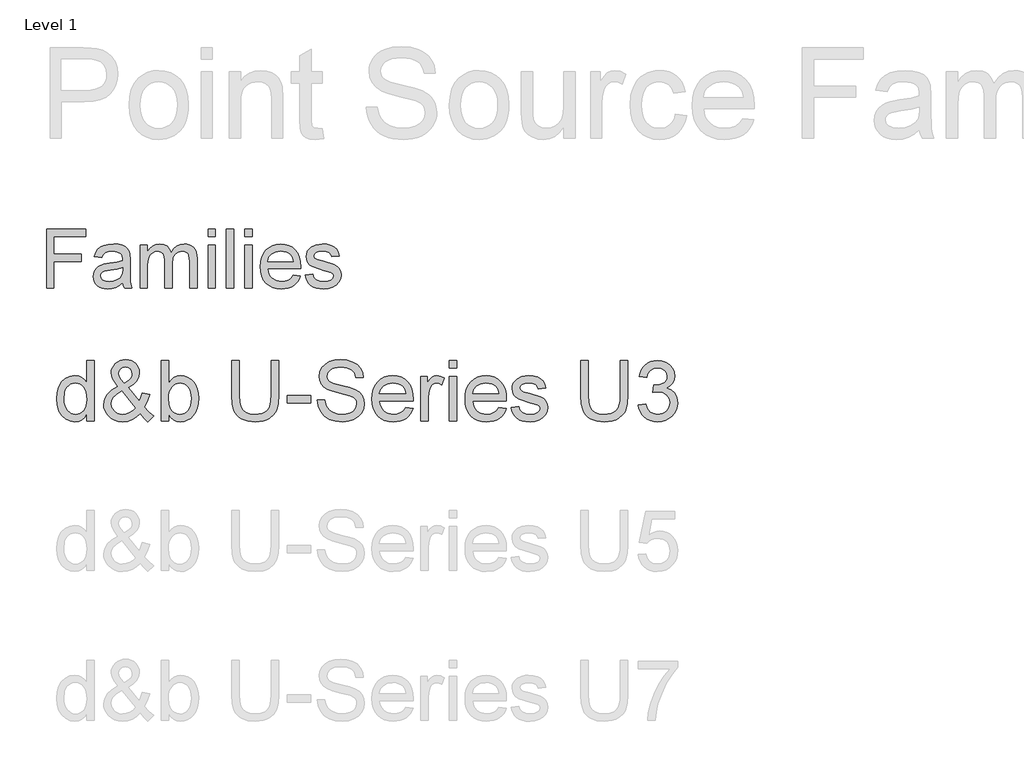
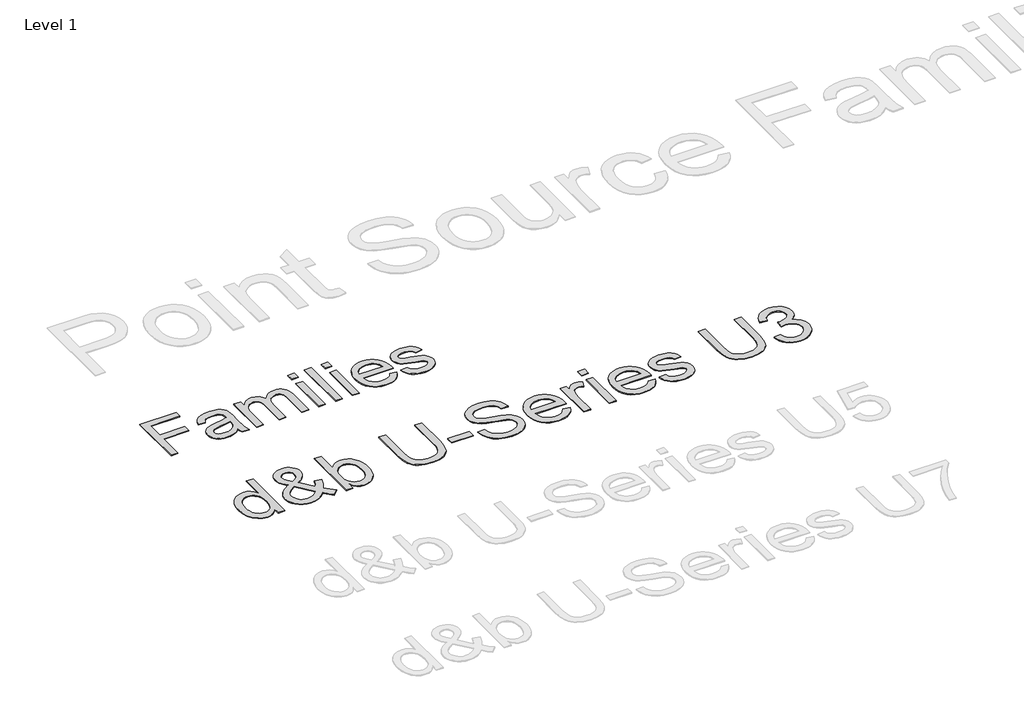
# One storey, part 25 of 29: 2 proxies.
"""IFC4 building model written with IfcOpenShell, lengths in millimetres."""

from ifc_helpers import new_model, si_unit, origin, origin_with_axes, place, context, project, spatial, polyline, outline, extrude, element, save

model = new_model("IFC4")

# Units and contexts
model_context = context("Model", 3, world=origin())
ifc_project = project(units=[si_unit("LENGTHUNIT", "METRE", prefix="MILLI")], contexts=[model_context])

# Site, building, storey
site = spatial("IfcSite", under=ifc_project)
building = spatial("IfcBuilding", under=site)
storey = spatial("IfcBuildingStorey", under=building, Name="Level 1", Elevation=0.0)

# Proxies
placement = place(None, origin())
element("IfcBuildingElementProxy", 1, Name="400mm Arial", ObjectType="400mm Arial", at=placement, inside=storey, context=model_context, shape_type="SweptSolid", body=[
    extrude(outline(polyline([(-21056.720891, 17351.3054836), (-21056.720891, 17743.0630593), (-20793.5087698, 17743.0630593), (-20793.5087698, 17694.0933624), (-21007.7511941, 17694.0933624), (-21007.7511941, 17577.7903321), (-20824.1148304, 17577.7903321), (-20824.1148304, 17528.8206351), (-21007.7511941, 17528.8206351), (-21007.7511941, 17351.3054836), (-21056.720891, 17351.3054836)])), origin_with_axes(), (0.0, 0.0, 1.0), 5.0),
    extrude(outline(polyline([(-20548.660285, 17388.0327563), (-20572.0571836, 17367.97144), (-20596.1475009, 17354.8443093), (-20621.4811893, 17347.5992809), (-20648.6082016, 17345.1842715), (-20670.4120309, 17346.6368638), (-20689.5318522, 17350.9946408), (-20705.9676654, 17358.2576024), (-20719.7194706, 17368.4257487), (-20730.5780466, 17380.8534831), (-20738.3341723, 17394.895209), (-20742.9878477, 17410.5509263), (-20744.5390729, 17427.8206351), (-20742.1957963, 17448.1210612), (-20735.1659668, 17466.5564305), (-20724.3223352, 17482.3376805), (-20710.5376524, 17494.6757487), (-20676.2493001, 17510.7439305), (-20633.879035, 17518.1085139), (-20583.8094327, 17525.855673), (-20548.9472168, 17534.9418472), (-20548.660285, 17545.8452563), (-20552.0317338, 17567.6998965), (-20562.1460804, 17581.9986654), (-20584.7658721, 17592.6151427), (-20616.2805501, 17596.1539684), (-20645.4519516, 17593.7987364), (-20665.8241107, 17586.7330404), (-20679.7163929, 17573.6656872), (-20689.4481638, 17553.3054836), (-20738.4178607, 17559.4266957), (-20729.9175056, 17586.2069987), (-20717.2327282, 17607.2486654), (-20699.1799346, 17623.3407582), (-20674.5755312, 17635.2723396), (-20644.4835568, 17642.660834), (-20609.9680501, 17645.1236654), (-20576.8632916, 17642.9477658), (-20550.6209857, 17636.4200669), (-20530.8346458, 17626.6046076), (-20517.097785, 17614.5654268), (-20507.9876997, 17599.6808387), (-20502.0816865, 17581.3291578), (-20499.690588, 17538.480673), (-20499.690588, 17477.5554836), (-20497.2038456, 17392.4801995), (-20487.4481638, 17351.3054836), (-20536.4178607, 17351.3054836), (-20544.2606638, 17368.3301048), (-20548.660285, 17388.0327563)]), holes=[polyline([(-20548.660285, 17485.9721502), (-20581.5618001, 17477.8185044), (-20627.6621789, 17470.9560518), (-20669.7933342, 17463.0176048), (-20680.7565208, 17457.5898112), (-20688.8743001, 17450.105673), (-20693.8956069, 17441.1390536), (-20695.5693759, 17431.2638169), (-20691.9229507, 17416.7020271), (-20680.9836751, 17404.7704457), (-20662.990659, 17396.8080877), (-20638.1830122, 17394.1539684), (-20611.8809289, 17397.0830641), (-20588.6394516, 17405.870351), (-20569.7975956, 17418.8181493), (-20556.6943759, 17434.228779), (-20550.8840066, 17450.105673), (-20548.9472168, 17472.103779), (-20548.660285, 17485.9721502)])]), origin_with_axes(), (0.0, 0.0, 1.0), 5.0),
    extrude(outline(polyline([(-20432.3572547, 17351.3054836), (-20432.3572547, 17639.0024533), (-20383.3875577, 17639.0024533), (-20383.3875577, 17591.6587033), (-20368.658391, 17613.405744), (-20349.720891, 17630.4423207), (-20327.2206543, 17641.4533292), (-20301.8032774, 17645.1236654), (-20274.5686657, 17641.3815963), (-20252.7379365, 17630.1553889), (-20236.4306448, 17612.1862838), (-20225.7663456, 17588.2155215), (-20207.9167954, 17613.1128344), (-20187.5565918, 17630.8966294), (-20164.6857348, 17641.5669064), (-20139.3042244, 17645.1236654), (-20119.7002057, 17643.6441732), (-20102.4932632, 17639.2056966), (-20087.683397, 17631.8082357), (-20075.2706069, 17621.4517904), (-20065.4581365, 17608.0168058), (-20058.4492291, 17591.3837269), (-20054.2438846, 17571.5525539), (-20052.8421032, 17548.5232866), (-20052.8421032, 17351.3054836), (-20101.8118001, 17351.3054836), (-20101.8118001, 17527.4816199), (-20106.3548872, 17568.369404), (-20112.7391202, 17579.6434334), (-20122.8056448, 17588.5024533), (-20135.7534431, 17594.2410896), (-20150.7814971, 17596.1539684), (-20177.3107348, 17591.2522165), (-20198.9382206, 17576.5469608), (-20207.3279874, 17565.2669537), (-20213.320678, 17551.03394), (-20218.1148304, 17513.7088927), (-20218.1148304, 17351.3054836), (-20267.0845274, 17351.3054836), (-20267.0845274, 17532.9333245), (-20269.9179791, 17560.6222449), (-20278.4183342, 17580.3727184), (-20293.3746552, 17592.2086559), (-20315.5760047, 17596.1539684), (-20334.4417717, 17593.5237601), (-20351.8250577, 17585.6331351), (-20366.1716486, 17572.6733813), (-20375.9273304, 17554.8357866), (-20381.5225009, 17530.0879173), (-20383.3875577, 17496.3973396), (-20383.3875577, 17351.3054836), (-20432.3572547, 17351.3054836)])), origin_with_axes(), (0.0, 0.0, 1.0), 5.0),
    extrude(outline(polyline([(-19979.3875577, 17694.0933624), (-19979.3875577, 17743.0630593), (-19930.4178607, 17743.0630593), (-19930.4178607, 17694.0933624), (-19979.3875577, 17694.0933624)])), origin_with_axes(), (0.0, 0.0, 1.0), 5.0),
    extrude(outline(polyline([(-19979.3875577, 17351.3054836), (-19979.3875577, 17639.0024533), (-19930.4178607, 17639.0024533), (-19930.4178607, 17351.3054836), (-19979.3875577, 17351.3054836)])), origin_with_axes(), (0.0, 0.0, 1.0), 5.0),
    extrude(outline(polyline([(-19856.9633153, 17351.3054836), (-19856.9633153, 17743.0630593), (-19807.9936183, 17743.0630593), (-19807.9936183, 17351.3054836), (-19856.9633153, 17351.3054836)])), origin_with_axes(), (0.0, 0.0, 1.0), 5.0),
    extrude(outline(polyline([(-19734.5390729, 17694.0933624), (-19734.5390729, 17743.0630593), (-19685.5693759, 17743.0630593), (-19685.5693759, 17694.0933624), (-19734.5390729, 17694.0933624)])), origin_with_axes(), (0.0, 0.0, 1.0), 5.0),
    extrude(outline(polyline([(-19734.5390729, 17351.3054836), (-19734.5390729, 17639.0024533), (-19685.5693759, 17639.0024533), (-19685.5693759, 17351.3054836), (-19734.5390729, 17351.3054836)])), origin_with_axes(), (0.0, 0.0, 1.0), 5.0),
    extrude(outline(polyline([(-19410.6886941, 17437.0024533), (-19362.6754365, 17430.8812411), (-19370.0370309, 17411.6508316), (-19379.975034, 17394.7039211), (-19392.4894457, 17380.0405096), (-19407.580266, 17367.6605972), (-19425.0920736, 17357.8272047), (-19444.8694469, 17350.8033529), (-19491.220891, 17345.1842715), (-19521.605775, 17347.6082475), (-19548.6789876, 17354.8801758), (-19572.4405288, 17367.0000563), (-19592.8903986, 17383.9678889), (-19609.3351784, 17405.3114317), (-19621.0814497, 17430.5584429), (-19628.1292125, 17459.7089223), (-19630.4784668, 17492.7628699), (-19628.1053015, 17526.937645), (-19620.9858058, 17557.0595082), (-19609.1199796, 17583.1284594), (-19592.5078229, 17605.1444987), (-19572.1117528, 17622.6353841), (-19548.8941865, 17635.1288737), (-19522.855124, 17642.6249675), (-19493.9945653, 17645.1236654), (-19466.0635461, 17642.6309452), (-19440.8045795, 17635.1527847), (-19418.2176654, 17622.6891839), (-19398.3028039, 17605.2401427), (-19382.0463231, 17583.2719253), (-19370.4345511, 17557.2507961), (-19363.4674879, 17527.1767549), (-19361.1451335, 17493.0498018), (-19361.4320653, 17479.8509381), (-19581.5087698, 17479.8509381), (-19578.6723292, 17460.3096858), (-19573.0323257, 17443.1953983), (-19564.5887592, 17428.5080759), (-19553.3416297, 17416.2477184), (-19524.9234242, 17399.6774059), (-19490.2644516, 17394.1539684), (-19464.2014782, 17396.7124438), (-19442.2511941, 17404.3878699), (-19424.4135994, 17417.6584665), (-19410.6886941, 17437.0024533)]), holes=[polyline([(-19581.5087698, 17528.8206351), (-19410.1148304, 17528.8206351), (-19416.7381732, 17554.6923207), (-19429.721838, 17573.199423), (-19443.076123, 17583.2420366), (-19458.2715539, 17590.4153321), (-19494.1858532, 17596.1539684), (-19527.1949677, 17591.5750148), (-19554.4893569, 17577.838154), (-19573.4627234, 17556.4258671), (-19581.5087698, 17528.8206351)])]), origin_with_axes(), (0.0, 0.0, 1.0), 5.0),
    extrude(outline(polyline([(-19330.5390729, 17437.0024533), (-19281.5693759, 17443.1236654), (-19273.8461278, 17422.1776427), (-19258.9017622, 17406.7789684), (-19236.6406354, 17397.3102184), (-19206.9671032, 17394.1539684), (-19177.6522357, 17397.0471976), (-19157.0409668, 17405.7268851), (-19144.8463645, 17418.3040631), (-19140.7814971, 17432.8897639), (-19144.8702755, 17445.371298), (-19157.1366107, 17454.8878699), (-19207.5409668, 17468.8518851), (-19281.2824441, 17492.8106919), (-19299.9449677, 17504.8498728), (-19313.4666297, 17520.7865442), (-19321.680053, 17539.6044893), (-19324.4178607, 17560.2874911), (-19322.2180501, 17579.2608576), (-19315.6186183, 17596.775654), (-19305.2173399, 17612.1384618), (-19291.6119895, 17624.6558624), (-19260.4798872, 17639.1459192), (-19218.3487319, 17645.1236654), (-19186.4753891, 17642.7206114), (-19158.7625577, 17635.5114495), (-19136.4775198, 17624.2015536), (-19120.8875577, 17609.496298), (-19110.5580122, 17590.3077326), (-19104.0542244, 17565.5479078), (-19153.0239213, 17559.4266957), (-19159.2049109, 17574.8373254), (-19171.4353797, 17586.4461086), (-19189.8348825, 17593.7270035), (-19214.5229744, 17596.1539684), (-19242.6422925, 17593.8346029), (-19261.3885047, 17586.8765063), (-19271.933249, 17576.8338927), (-19275.4481638, 17565.260976), (-19269.6138835, 17551.010029), (-19251.345891, 17540.2022639), (-19209.1669138, 17529.7770745), (-19137.2904933, 17506.7268851), (-19118.3051713, 17495.7039211), (-19103.9107585, 17480.6160896), (-19094.8365397, 17461.4155688), (-19091.8118001, 17438.0545366), (-19095.3625814, 17413.9044419), (-19106.0149251, 17391.1890063), (-19123.3623446, 17371.6895982), (-19146.9983532, 17357.1875858), (-19175.5480691, 17348.1851), (-19207.6366107, 17345.1842715), (-19233.9924938, 17346.630886), (-19257.0127944, 17350.9707298), (-19276.6975127, 17358.2038027), (-19293.0466486, 17368.3301048), (-19306.4009336, 17381.3018141), (-19317.1010994, 17397.0711086), (-19325.1471458, 17415.6379883), (-19330.5390729, 17437.0024533)])), origin_with_axes(), (0.0, 0.0, 1.0), 5.0),
])
element("IfcBuildingElementProxy", 2, Name="400mm Arial", ObjectType="400mm Arial", at=placement, inside=storey, context=model_context, shape_type="SweptSolid", body=[
    extrude(outline(polyline([(-20788.4119982, 16464.3636615), (-20788.4119982, 16511.7468625), (-20803.4399777, 16488.2698598), (-20821.6440051, 16471.5005722), (-20843.0240804, 16461.4389996), (-20867.5802036, 16458.0851421), (-20900.051921, 16462.9411844), (-20929.7767862, 16477.5093115), (-20954.9399147, 16500.7717163), (-20973.7264219, 16531.7105921), (-20985.4250694, 16569.0751401), (-20989.3246185, 16611.6145614), (-20985.7316377, 16653.6266853), (-20974.9526952, 16691.5675817), (-20957.0000539, 16723.2790097), (-20931.8859763, 16746.6027282), (-20901.5111863, 16760.950126), (-20867.7764073, 16765.7325919), (-20843.20189, 16762.3112894), (-20821.4723268, 16752.0473817), (-20803.0537016, 16736.3142951), (-20788.4119982, 16716.4854555), (-20788.4119982, 16866.1889021), (-20738.1838431, 16866.1889021), (-20738.1838431, 16464.3636615), (-20788.4119982, 16464.3636615)]), holes=[polyline([(-20939.0964634, 16611.8107652), (-20937.6801177, 16587.4539114), (-20933.4310807, 16566.3773388), (-20926.3493523, 16548.5810472), (-20916.4349325, 16534.0650368), (-20891.7377879, 16514.7512321), (-20877.8625053, 16509.9227809), (-20862.9694159, 16508.3132972), (-20848.0058157, 16509.8492045), (-20834.2133066, 16514.4569265), (-20810.1415614, 16532.8878145), (-20800.6348775, 16546.7968196), (-20793.844389, 16563.9493176), (-20788.4119982, 16607.9847924), (-20793.9424909, 16656.1282828), (-20800.8556067, 16674.663404), (-20810.5339688, 16689.5074425), (-20822.235682, 16700.8811276), (-20835.2188507, 16709.0051883), (-20849.4834751, 16713.8796247), (-20865.0295551, 16715.5044369), (-20880.2169501, 16713.9440041), (-20894.0922327, 16709.2627057), (-20906.6554028, 16701.4605417), (-20917.9064605, 16690.5375121), (-20927.1770868, 16676.2544937), (-20933.7989627, 16658.372363), (-20939.0964634, 16611.8107652)])]), origin_with_axes(), (0.0, 0.0, 1.0), 5.0),
    extrude(outline(polyline([(-20432.4003287, 16514.0032054), (-20457.9313392, 16489.5390527), (-20485.6696416, 16472.0646579), (-20515.664287, 16461.5800211), (-20547.9643262, 16458.0851421), (-20577.2722584, 16460.6725788), (-20603.3918801, 16468.4348889), (-20626.3231911, 16481.3720724), (-20646.0661915, 16499.4841293), (-20658.8991418, 16516.8542908), (-20668.0655348, 16535.2177338), (-20673.5653707, 16554.5744581), (-20675.3986493, 16574.9244638), (-20669.5002746, 16610.118508), (-20651.8051507, 16641.7318341), (-20622.3868538, 16669.7399167), (-20581.3189604, 16694.1182302), (-20603.2324646, 16722.4696693), (-20616.3903773, 16744.9349965), (-20622.975465, 16764.1139112), (-20625.1704942, 16782.6061128), (-20623.4414488, 16800.1602153), (-20618.2543127, 16816.5248327), (-20609.6090858, 16831.699965), (-20597.5057682, 16845.6856122), (-20582.784357, 16857.4026538), (-20566.2848495, 16865.7719692), (-20548.0072457, 16870.7935584), (-20527.9515456, 16872.4674215), (-20508.8032878, 16870.8671348), (-20491.4821772, 16866.0662748), (-20475.9882138, 16858.0648414), (-20462.3213977, 16846.8628346), (-20451.1623105, 16833.4167477), (-20443.1915339, 16818.6830738), (-20438.409068, 16802.6618129), (-20436.8149127, 16785.352965), (-20441.5360649, 16757.3694079), (-20455.6995218, 16731.4950409), (-20479.3052831, 16707.729864), (-20512.353349, 16686.0738773), (-20439.6598668, 16595.5258555), (-20427.2745063, 16621.4002225), (-20417.9793545, 16651.1496132), (-20367.7511994, 16640.2603061), (-20383.2022432, 16593.7354965), (-20403.2640747, 16557.5604336), (-20374.7164319, 16524.2548503), (-20342.6371219, 16496.7372771), (-20380.3082382, 16458.0851421), (-20405.9373505, 16481.5314879), (-20432.4003287, 16514.0032054)]), holes=[polyline([(-20537.7617322, 16717.7607798), (-20511.4949577, 16734.4258341), (-20496.4608468, 16748.908122), (-20489.3975125, 16762.9980024), (-20487.0430678, 16778.4858344), (-20490.1455392, 16796.0338056), (-20499.4529537, 16810.0255842), (-20513.4202068, 16819.1858458), (-20530.5021941, 16822.2392664), (-20547.9520634, 16819.2103713), (-20562.2381476, 16810.123686), (-20571.7662912, 16796.6714677), (-20574.9423391, 16780.5459736), (-20570.6258571, 16762.1518739), (-20557.578309, 16741.6976349), (-20537.7617322, 16717.7607798)]), polyline([(-20466.0492686, 16550.2027937), (-20555.7143735, 16662.1370221), (-20589.9641873, 16640.2848316), (-20610.8966728, 16620.0513218), (-20621.6020389, 16600.7252544), (-20625.1704942, 16581.5953906), (-20620.2899264, 16557.9037901), (-20605.648223, 16533.3292729), (-20594.8692805, 16522.3847835), (-20582.0547244, 16514.5672911), (-20567.2045545, 16509.8767957), (-20550.3187709, 16508.3132972), (-20527.5959264, 16511.2318277), (-20504.1618433, 16519.9874192), (-20482.7388484, 16533.3783238), (-20466.0492686, 16550.2027937)])]), origin_with_axes(), (0.0, 0.0, 1.0), 5.0),
    extrude(outline(polyline([(-20242.1808118, 16464.3636615), (-20292.4089668, 16464.3636615), (-20292.4089668, 16866.1889021), (-20242.1808118, 16866.1889021), (-20242.1808118, 16717.1721686), (-20225.6629102, 16738.4173538), (-20207.011293, 16753.5924861), (-20186.2259603, 16762.6975655), (-20163.306912, 16765.7325919), (-20137.432545, 16762.9980024), (-20112.9806551, 16754.7942339), (-20091.3491937, 16741.6363213), (-20073.9361126, 16724.0392992), (-20060.2876906, 16702.1748459), (-20049.9502065, 16676.2146398), (-20043.4386952, 16647.2378013), (-20041.2681915, 16616.323451), (-20043.5153373, 16580.6511602), (-20050.2567749, 16549.270826), (-20061.4925041, 16522.1824484), (-20077.2225251, 16499.3860274), (-20096.1040685, 16481.3168901), (-20116.7943651, 16468.4103634), (-20139.2934148, 16460.6664474), (-20163.6012176, 16458.0851421), (-20187.274424, 16461.4144742), (-20208.2620918, 16471.4024703), (-20226.5642211, 16488.0491306), (-20242.1808118, 16511.354455), (-20242.1808118, 16464.3636615)]), holes=[polyline([(-20242.1808118, 16613.9690062), (-20238.7472465, 16572.0795097), (-20228.4465506, 16543.7280706), (-20216.2757879, 16528.2341072), (-20202.1307252, 16517.1669905), (-20186.0113625, 16510.5267205), (-20167.9176997, 16508.3132972), (-20152.8958515, 16509.9442407), (-20138.9285984, 16514.8370712), (-20126.0159404, 16522.9917888), (-20114.1578774, 16534.4083934), (-20104.2434577, 16549.0562281), (-20097.1617293, 16566.9046363), (-20092.9126922, 16587.9536178), (-20091.4963465, 16612.2031726), (-20096.9287373, 16658.1638965), (-20103.7192258, 16675.9571224), (-20113.2259097, 16690.2922575), (-20124.6578427, 16701.322586), (-20137.2240785, 16709.201392), (-20150.9246172, 16713.9286757), (-20165.7594586, 16715.5044369), (-20180.7813068, 16713.8734934), (-20194.7485599, 16708.9806628), (-20207.6612179, 16700.8259453), (-20219.5192809, 16689.4093407), (-20229.4337006, 16674.9086587), (-20236.515429, 16657.501709), (-20240.7644661, 16637.1884915), (-20242.1808118, 16613.9690062)])]), origin_with_axes(), (0.0, 0.0, 1.0), 5.0),
    extrude(outline(polyline([(-19557.8221989, 16866.1889021), (-19507.5940438, 16866.1889021), (-19507.5940438, 16634.3741942), (-19511.0030836, 16580.0870744), (-19521.2302031, 16538.2834171), (-19529.4155775, 16521.3301884), (-19540.3355414, 16506.0324288), (-19570.3792376, 16480.4033165), (-19589.5213641, 16470.6391152), (-19611.4348683, 16463.6646857), (-19663.5760097, 16458.0851421), (-19714.576717, 16462.9411844), (-19755.3503048, 16477.5093115), (-19771.9049946, 16488.3097137), (-19785.9090359, 16501.2867511), (-19797.3624287, 16516.4404236), (-19806.2651729, 16533.7707312), (-19817.706303, 16577.3402222), (-19821.520013, 16634.3741942), (-19821.520013, 16866.1889021), (-19771.2918579, 16866.1889021), (-19771.2918579, 16636.1400278), (-19768.8147858, 16591.000907), (-19761.3835695, 16559.5715218), (-19747.9190885, 16537.8051705), (-19727.3422222, 16521.6551509), (-19700.5113621, 16511.6487606), (-19668.2848993, 16508.3132972), (-19640.6017791, 16509.9626348), (-19617.1983529, 16514.9106476), (-19598.0746205, 16523.1573357), (-19583.230582, 16534.702699), (-19572.1144144, 16550.9385577), (-19564.1742947, 16573.2567321), (-19559.4102228, 16601.6572221), (-19557.8221989, 16636.1400278), (-19557.8221989, 16866.1889021)])), origin_with_axes(), (0.0, 0.0, 1.0), 5.0),
    extrude(outline(polyline([(-19451.0873693, 16583.6555298), (-19451.0873693, 16633.8836849), (-19294.1243847, 16633.8836849), (-19294.1243847, 16583.6555298), (-19451.0873693, 16583.6555298)])), origin_with_axes(), (0.0, 0.0, 1.0), 5.0),
    extrude(outline(polyline([(-19250.174749, 16602.4910879), (-19199.946594, 16602.4910879), (-19194.1831094, 16574.6178954), (-19183.7597862, 16552.2138819), (-19167.499402, 16534.4329188), (-19144.2247344, 16520.4288776), (-19115.7751935, 16511.3421923), (-19083.9901891, 16508.3132972), (-19056.006632, 16510.6064283), (-19031.5056911, 16517.4858216), (-19011.6523261, 16528.3751287), (-18997.6114966, 16542.698001), (-18989.2605753, 16559.1423262), (-18986.4769349, 16576.3959918), (-18988.5615995, 16593.2081989), (-18994.8155934, 16607.7395377), (-19007.519785, 16620.137161), (-19028.9550426, 16630.5482214), (-19102.0899832, 16649.7271361), (-19150.0985836, 16662.419065), (-19180.8167302, 16674.4978571), (-19205.8204431, 16691.3959034), (-19223.5400926, 16711.8746678), (-19234.0983058, 16735.4926919), (-19237.6177103, 16761.8085173), (-19233.26444, 16791.2268142), (-19220.2046292, 16818.6585483), (-19198.7816343, 16841.9086904), (-19169.338812, 16858.7822113), (-19133.997615, 16869.0461189), (-19094.8794961, 16872.4674215), (-19052.4994903, 16868.8867034), (-19015.4169852, 16858.1445491), (-18984.956356, 16840.4616879), (-18962.4419779, 16816.0588489), (-18948.1926819, 16786.456611), (-18942.5272992, 16753.1755532), (-18992.7554543, 16753.1755532), (-19001.9770296, 16783.145673), (-19010.3402136, 16795.003736), (-19021.2049952, 16804.7771344), (-19051.2486915, 16817.8737334), (-19092.9174588, 16822.2392664), (-19135.5672448, 16817.9227843), (-19151.8705486, 16812.5271817), (-19164.8261262, 16804.9733381), (-19181.7486979, 16785.9170507), (-19187.3895552, 16763.2800453), (-19183.3919042, 16743.9785033), (-19171.3989511, 16728.4538831), (-19143.047512, 16714.5724691), (-19089.3857917, 16700.3967496), (-19034.0072887, 16686.9322686), (-19000.5055016, 16675.1845702), (-18971.8720197, 16656.9621487), (-18951.8960273, 16634.4722961), (-18940.1605917, 16607.9602669), (-18936.2487798, 16577.671316), (-18940.7492029, 16546.7079147), (-18954.2504721, 16517.5839235), (-18976.2007645, 16492.5188969), (-19006.048257, 16473.7323896), (-19041.941277, 16461.996954), (-19082.0281518, 16458.0851421), (-19131.2385, 16462.3035223), (-19171.7423077, 16474.958663), (-19204.0055586, 16496.0996149), (-19228.4942368, 16525.7754292), (-19244.2150607, 16561.9259666), (-19250.174749, 16602.4910879)])), origin_with_axes(), (0.0, 0.0, 1.0), 5.0),
    extrude(outline(polyline([(-18660.5825381, 16552.2629329), (-18611.3354017, 16545.9844135), (-18618.8861796, 16526.2598072), (-18629.0795766, 16508.8773829), (-18641.9155925, 16493.8371407), (-18657.3942275, 16481.1390805), (-18675.3560659, 16471.0529824), (-18695.6416922, 16463.8486267), (-18743.1843087, 16458.0851421), (-18774.3500451, 16460.5714113), (-18802.1190044, 16468.0302187), (-18826.4911866, 16480.4615645), (-18847.4665916, 16497.8654485), (-18864.3339811, 16519.7574929), (-18876.3821165, 16545.6533197), (-18883.6109977, 16575.5529288), (-18886.0206247, 16609.4563204), (-18883.5864722, 16644.5093432), (-18876.2840146, 16675.4052994), (-18864.1132519, 16702.1441891), (-18847.0741842, 16724.7260122), (-18826.1539614, 16742.6663908), (-18802.3397336, 16755.480947), (-18775.6315007, 16763.1696807), (-18746.0292628, 16765.7325919), (-18717.3804525, 16763.1758121), (-18691.472363, 16755.5054725), (-18668.3049943, 16742.7215731), (-18647.8783465, 16724.8241141), (-18631.2040951, 16702.2913419), (-18619.2939155, 16675.6015031), (-18612.1478077, 16644.7545978), (-18609.7657718, 16609.750626), (-18610.0600774, 16596.2125686), (-18835.7924697, 16596.2125686), (-18832.8831362, 16576.1691312), (-18827.0981918, 16558.6150287), (-18818.4376365, 16543.550261), (-18806.9014703, 16530.9748281), (-18793.1273553, 16521.0604083), (-18777.7529536, 16513.9786799), (-18742.2032901, 16508.3132972), (-18715.4705318, 16510.9375221), (-18692.9561537, 16518.8101968), (-18674.6601558, 16532.4218306), (-18660.5825381, 16552.2629329)]), holes=[polyline([(-18835.7924697, 16646.4407236), (-18659.9939269, 16646.4407236), (-18666.7874811, 16672.9772782), (-18680.1048093, 16691.9599892), (-18693.8022823, 16702.260685), (-18709.3882161, 16709.6183249), (-18726.8626109, 16714.0329089), (-18746.2254666, 16715.5044369), (-18780.0828729, 16710.8078101), (-18808.0786927, 16696.7179296), (-18827.5396502, 16674.7553745), (-18835.7924697, 16646.4407236)])]), origin_with_axes(), (0.0, 0.0, 1.0), 5.0),
    extrude(outline(polyline([(-18559.5376168, 16464.3636615), (-18559.5376168, 16759.4540726), (-18515.5879811, 16759.4540726), (-18515.5879811, 16715.7987425), (-18499.3521223, 16741.1090237), (-18484.3915879, 16756.0205073), (-18469.3820025, 16763.3045708), (-18452.998991, 16765.7325919), (-18427.9830153, 16761.8575683), (-18402.5746321, 16750.2324972), (-18419.3500511, 16705.203741), (-18437.0083869, 16712.9292629), (-18454.6667227, 16715.5044369), (-18469.6640453, 16713.0273648), (-18483.0672127, 16705.5961485), (-18493.8952061, 16693.7748737), (-18501.1670069, 16678.1276262), (-18507.273848, 16650.0704927), (-18509.3094617, 16619.4627107), (-18509.3094617, 16464.3636615), (-18559.5376168, 16464.3636615)])), origin_with_axes(), (0.0, 0.0, 1.0), 5.0),
    extrude(outline(polyline([(-18371.1820352, 16815.960747), (-18371.1820352, 16866.1889021), (-18320.9538802, 16866.1889021), (-18320.9538802, 16815.960747), (-18371.1820352, 16815.960747)])), origin_with_axes(), (0.0, 0.0, 1.0), 5.0),
    extrude(outline(polyline([(-18371.1820352, 16464.3636615), (-18371.1820352, 16759.4540726), (-18320.9538802, 16759.4540726), (-18320.9538802, 16464.3636615), (-18371.1820352, 16464.3636615)])), origin_with_axes(), (0.0, 0.0, 1.0), 5.0),
    extrude(outline(polyline([(-18039.009119, 16552.2629329), (-17989.7619826, 16545.9844135), (-17997.3127606, 16526.2598072), (-18007.5061575, 16508.8773829), (-18020.3421735, 16493.8371407), (-18035.8208084, 16481.1390805), (-18053.7826468, 16471.0529824), (-18074.0682732, 16463.8486267), (-18121.6108897, 16458.0851421), (-18152.7766261, 16460.5714113), (-18180.5455853, 16468.0302187), (-18204.9177675, 16480.4615645), (-18225.8931726, 16497.8654485), (-18242.7605621, 16519.7574929), (-18254.8086974, 16545.6533197), (-18262.0375786, 16575.5529288), (-18264.4472057, 16609.4563204), (-18262.0130532, 16644.5093432), (-18254.7105956, 16675.4052994), (-18242.5398329, 16702.1441891), (-18225.5007651, 16724.7260122), (-18204.5805423, 16742.6663908), (-18180.7663145, 16755.480947), (-18154.0580817, 16763.1696807), (-18124.4558438, 16765.7325919), (-18095.8070334, 16763.1758121), (-18069.8989439, 16755.5054725), (-18046.7315753, 16742.7215731), (-18026.3049275, 16724.8241141), (-18009.630676, 16702.2913419), (-17997.7204965, 16675.6015031), (-17990.5743887, 16644.7545978), (-17988.1923528, 16609.750626), (-17988.4866584, 16596.2125686), (-18214.2190506, 16596.2125686), (-18211.3097172, 16576.1691312), (-18205.5247728, 16558.6150287), (-18196.8642175, 16543.550261), (-18185.3280513, 16530.9748281), (-18171.5539362, 16521.0604083), (-18156.1795345, 16513.9786799), (-18120.629871, 16508.3132972), (-18093.8971127, 16510.9375221), (-18071.3827346, 16518.8101968), (-18053.0867367, 16532.4218306), (-18039.009119, 16552.2629329)]), holes=[polyline([(-18214.2190506, 16646.4407236), (-18038.4205079, 16646.4407236), (-18045.214062, 16672.9772782), (-18058.5313903, 16691.9599892), (-18072.2288632, 16702.260685), (-18087.8147971, 16709.6183249), (-18105.2891918, 16714.0329089), (-18124.6520475, 16715.5044369), (-18158.5094538, 16710.8078101), (-18186.5052736, 16696.7179296), (-18205.9662312, 16674.7553745), (-18214.2190506, 16646.4407236)])]), origin_with_axes(), (0.0, 0.0, 1.0), 5.0),
    extrude(outline(polyline([(-17956.7997559, 16552.2629329), (-17906.5716008, 16558.5414523), (-17898.6498752, 16537.0571437), (-17883.3214587, 16521.2627434), (-17860.4882495, 16511.5506587), (-17830.0521458, 16508.3132972), (-17799.983924, 16511.2808786), (-17778.8429721, 16520.1836229), (-17766.3349842, 16533.0840182), (-17762.1656549, 16548.0445527), (-17766.3595097, 16560.8468461), (-17778.9410739, 16570.6079817), (-17830.640757, 16584.930854), (-17906.2772952, 16609.5053713), (-17925.4194217, 16621.8539436), (-17939.2885729, 16638.2001669), (-17947.7130706, 16657.501709), (-17950.5212365, 16678.7162373), (-17948.2648936, 16698.1771949), (-17941.4958649, 16716.142099), (-17930.827287, 16731.8997111), (-17916.8722966, 16744.7387927), (-17884.9401395, 16759.6012254), (-17864.0567049, 16764.1997503), (-17841.7262678, 16765.7325919), (-17809.0338211, 16763.2677826), (-17780.6088056, 16755.8733545), (-17757.751071, 16744.2728089), (-17741.7604669, 16729.1896471), (-17731.1654655, 16709.5079603), (-17724.4945386, 16684.1118399), (-17774.7226937, 16677.8333206), (-17781.0625268, 16693.6399836), (-17793.6073028, 16705.5470975), (-17812.4796492, 16713.015102), (-17837.8021932, 16715.5044369), (-17866.6441416, 16713.1254666), (-17885.8721072, 16705.9885559), (-17896.6878378, 16695.6878601), (-17900.2930814, 16683.8175343), (-17894.3088676, 16669.2003564), (-17875.5714113, 16658.1148456), (-17832.3084887, 16647.4217423), (-17758.5849369, 16623.7791927), (-17739.1117166, 16612.4729527), (-17724.3473858, 16596.9973835), (-17715.0399714, 16577.303434), (-17711.9374999, 16553.3420534), (-17715.5795316, 16528.5713324), (-17726.5056269, 16505.2721394), (-17744.2988527, 16485.2716215), (-17768.5422762, 16470.3969262), (-17797.825683, 16461.1630881), (-17830.7388588, 16458.0851421), (-17857.7720541, 16459.5689328), (-17881.3839468, 16464.020305), (-17901.574537, 16471.4392585), (-17918.3438246, 16481.8257935), (-17932.0412976, 16495.130859), (-17943.0164438, 16511.3054041), (-17951.2692632, 16530.3494287), (-17956.7997559, 16552.2629329)])), origin_with_axes(), (0.0, 0.0, 1.0), 5.0),
    extrude(outline(polyline([(-17228.4915073, 16866.1889021), (-17178.2633522, 16866.1889021), (-17178.2633522, 16634.3741942), (-17181.672392, 16580.0870744), (-17191.8995115, 16538.2834171), (-17200.0848859, 16521.3301884), (-17211.0048498, 16506.0324288), (-17241.048546, 16480.4033165), (-17260.1906725, 16470.6391152), (-17282.1041767, 16463.6646857), (-17334.2453182, 16458.0851421), (-17385.2460254, 16462.9411844), (-17426.0196132, 16477.5093115), (-17442.574303, 16488.3097137), (-17456.5783443, 16501.2867511), (-17468.0317371, 16516.4404236), (-17476.9344814, 16533.7707312), (-17488.3756114, 16577.3402222), (-17492.1893214, 16634.3741942), (-17492.1893214, 16866.1889021), (-17441.9611663, 16866.1889021), (-17441.9611663, 16636.1400278), (-17439.4840942, 16591.000907), (-17432.0528779, 16559.5715218), (-17418.5883969, 16537.8051705), (-17398.0115307, 16521.6551509), (-17371.1806705, 16511.6487606), (-17338.9542077, 16508.3132972), (-17311.2710876, 16509.9626348), (-17287.8676613, 16514.9106476), (-17268.7439289, 16523.1573357), (-17253.8998904, 16534.702699), (-17242.7837228, 16550.9385577), (-17234.8436031, 16573.2567321), (-17230.0795312, 16601.6572221), (-17228.4915073, 16636.1400278), (-17228.4915073, 16866.1889021)])), origin_with_axes(), (0.0, 0.0, 1.0), 5.0),
    extrude(outline(polyline([(-17109.199639, 16571.098491), (-17058.9714839, 16577.3770104), (-17047.7265576, 16545.8127352), (-17031.2577069, 16524.500105), (-17008.7555916, 16512.3599991), (-16979.4108711, 16508.3132972), (-16944.9771163, 16513.880578), (-16930.7032949, 16520.8396791), (-16918.3915108, 16530.5824206), (-16901.3953626, 16555.5002944), (-16895.7299799, 16585.715669), (-16901.3463117, 16614.3982019), (-16918.1953071, 16637.6606067), (-16943.7017921, 16653.0748623), (-16975.2905927, 16658.2129475), (-17010.5091624, 16652.719243), (-17004.9173561, 16702.9473981), (-16996.8730031, 16702.3587869), (-16966.7802559, 16705.9640305), (-16939.8758193, 16716.7797611), (-16928.8025713, 16724.9590041), (-16920.8931084, 16735.075759), (-16916.1474306, 16747.1300257), (-16914.5655381, 16761.1218043), (-16919.1518003, 16782.8145792), (-16932.9105869, 16800.4116014), (-16953.9043861, 16812.0734606), (-16980.195686, 16815.960747), (-17006.5360369, 16812.0366724), (-17028.0693963, 16800.2644486), (-17043.7902202, 16780.6440755), (-17052.6929645, 16753.1755532), (-17102.9211196, 16759.4540726), (-17096.9675626, 16783.4338473), (-17088.1322634, 16804.5564052), (-17076.4152218, 16822.8217462), (-17061.816438, 16838.2298705), (-17044.7957643, 16850.4619468), (-17025.8130534, 16859.1991442), (-17004.8683051, 16864.4414626), (-16981.9615196, 16866.1889021), (-16950.3849817, 16862.7430741), (-16921.3836177, 16852.40559), (-16896.9317278, 16836.0961549), (-16879.0036119, 16814.7344737), (-16868.0039402, 16790.1231682), (-16864.337383, 16764.0648602), (-16867.8199992, 16739.7846485), (-16878.2678479, 16717.7607798), (-16895.5337762, 16698.998798), (-16919.4706313, 16684.5042474), (-16888.0289835, 16671.8000558), (-16864.7297904, 16650.1685945), (-16850.3088162, 16620.7870858), (-16845.5018248, 16584.8327522), (-16847.9053205, 16559.3507926), (-16855.1158076, 16535.8799214), (-16867.1332861, 16514.4201383), (-16883.9577561, 16494.9714435), (-16904.4549146, 16478.8336866), (-16927.4904588, 16467.3067175), (-16953.0643889, 16460.3905359), (-16981.1767046, 16458.0851421), (-17006.5850878, 16460.0533108), (-17029.737128, 16465.9578168), (-17050.6328253, 16475.7986602), (-17069.2721798, 16489.5758409), (-17084.9010332, 16506.4800186), (-17096.7652275, 16525.7018528), (-17104.8647628, 16547.2413436), (-17109.199639, 16571.098491)])), origin_with_axes(), (0.0, 0.0, 1.0), 5.0),
])

save(model, "model.ifc")
